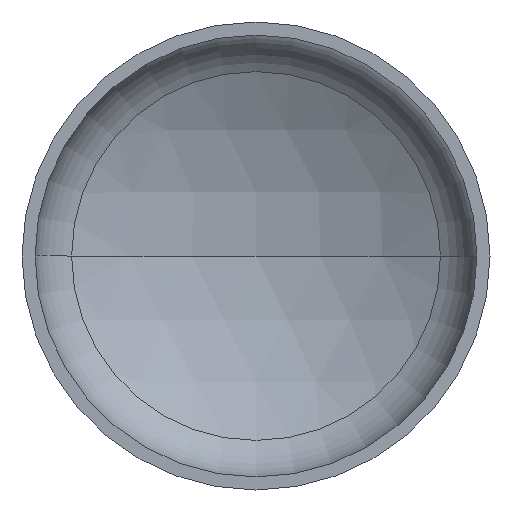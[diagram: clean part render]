
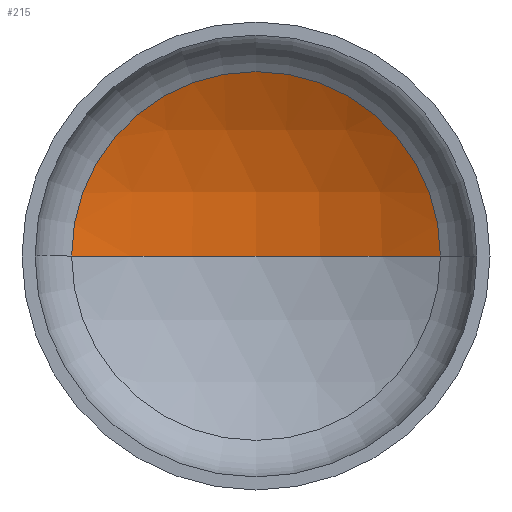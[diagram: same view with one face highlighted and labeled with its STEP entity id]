
A CAD part, front view. The second image highlights one B-rep face of the part: STEP entity #215.
In plain terms, the highlighted spherical face has radius 3040 mm.
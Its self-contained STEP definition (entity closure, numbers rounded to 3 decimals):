
#2 = AXIS2_PLACEMENT_3D ( 'NONE', #279, #154, #303 ) ;
#9 = VERTEX_POINT ( 'NONE', #205 ) ;
#18 = AXIS2_PLACEMENT_3D ( 'NONE', #275, #150, #299 ) ;
#19 = AXIS2_PLACEMENT_3D ( 'NONE', #380, #231, #403 ) ;
#26 = ORIENTED_EDGE ( 'NONE', *, *, #323, .T. ) ;
#41 = ORIENTED_EDGE ( 'NONE', *, *, #381, .F. ) ;
#42 = VERTEX_POINT ( 'NONE', #221 ) ;
#55 = AXIS2_PLACEMENT_3D ( 'NONE', #63, #376, #146 ) ;
#63 = CARTESIAN_POINT ( 'NONE',  ( 0., -2061.667, 0. ) ) ;
#133 = EDGE_LOOP ( 'NONE', ( #41, #138, #26 ) ) ;
#138 = ORIENTED_EDGE ( 'NONE', *, *, #327, .T. ) ;
#144 = CIRCLE ( 'NONE', #18, 3040. ) ;
#146 = DIRECTION ( 'NONE',  ( -1., 0., 0. ) ) ;
#150 = DIRECTION ( 'NONE',  ( 0., 0., -1. ) ) ;
#154 = DIRECTION ( 'NONE',  ( 0., 0., 1. ) ) ;
#205 = CARTESIAN_POINT ( 'NONE',  ( 0., 978.333, 0. ) ) ;
#215 = ADVANCED_FACE ( 'NONE', ( #219 ), #284, .F. ) ;
#219 = FACE_OUTER_BOUND ( 'NONE', #133, .T. ) ;
#221 = CARTESIAN_POINT ( 'NONE',  ( 1497.092, 584.145, 0. ) ) ;
#231 = DIRECTION ( 'NONE',  ( 0., -1., 0. ) ) ;
#251 = VERTEX_POINT ( 'NONE', #324 ) ;
#275 = CARTESIAN_POINT ( 'NONE',  ( 0., -2061.667, 0. ) ) ;
#279 = CARTESIAN_POINT ( 'NONE',  ( 0., -2061.667, 0. ) ) ;
#284 = SPHERICAL_SURFACE ( 'NONE', #55, 3040. ) ;
#294 = CIRCLE ( 'NONE', #2, 3040. ) ;
#299 = DIRECTION ( 'NONE',  ( -1., 0., 0. ) ) ;
#303 = DIRECTION ( 'NONE',  ( 1., 0., 0. ) ) ;
#323 = EDGE_CURVE ( 'NONE', #42, #251, #385, .T. ) ;
#324 = CARTESIAN_POINT ( 'NONE',  ( -1497.092, 584.145, 0. ) ) ;
#327 = EDGE_CURVE ( 'NONE', #9, #42, #144, .T. ) ;
#376 = DIRECTION ( 'NONE',  ( 0., 0., -1. ) ) ;
#380 = CARTESIAN_POINT ( 'NONE',  ( 0., 584.145, 0. ) ) ;
#381 = EDGE_CURVE ( 'NONE', #9, #251, #294, .T. ) ;
#385 = CIRCLE ( 'NONE', #19, 1497.092 ) ;
#403 = DIRECTION ( 'NONE',  ( 1., 0., 0. ) ) ;
